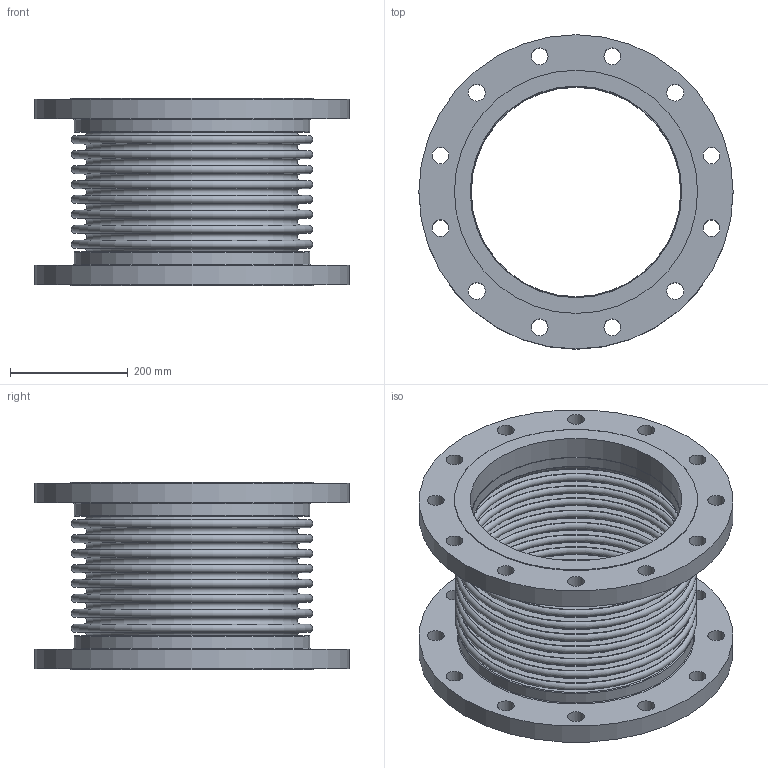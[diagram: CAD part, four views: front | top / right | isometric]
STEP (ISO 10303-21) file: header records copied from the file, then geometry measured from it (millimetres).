
FILE_DESCRIPTION(/* description */ ('EXPANSION JOINT,SINGLE, FLANGED ENDS,14 INCH','CAx-IF Rec.Pracs.---Representation and Presentation of Product Manufacturing Information (PMI)---4.0---2014-10-13'),/* implementation_level */ '2;1');
FILE_NAME(/* name */ 'US-14-8-85S-FLANGED ENDS.stp',/* time_stamp */ '2026-07-31T18:02:20-05:00',/* author */ ('Guadalupe'),/* organization */ (''),/* preprocessor_version */ 'ST-DEVELOPER v20.1',/* originating_system */ 'Autodesk Inventor 2026',/* authorisation */ '');
FILE_SCHEMA (('AP242_MANAGED_MODEL_BASED_3D_ENGINEERING_MIM_LF { 1 0 10303 442 2 1 4 }'));
Length unit declared in the file: inch
Products named in the file (3): 14-85S; 14-85S-02; 14-85S-01
Assembly tree (3 placements, depth 2):
  14-85S
    14-85S-02  x2
    14-85S-01
Bounding box: 533.4 x 533.4 x 317.5 mm (x, y, z)
Volume: 9430612.6 mm3; surface area: 2199952 mm2
Topology: 5 solids, 5 shells, 120 faces, 222 edges, 148 vertices
Faces by surface type: plane 46, torus 38, cylinder 36
Full cylindrical faces by diameter (mm): 28.575 x24, 355.6 x2, 357.429 x2, 359.156 x2, 400.05 x2, 412.75 x2, 533.4 x2
Entity records: 2714 total; most frequent: DIRECTION 550, CARTESIAN_POINT 401, ORIENTED_EDGE 336, AXIS2_PLACEMENT_3D 265, EDGE_CURVE 168, EDGE_LOOP 164, CIRCLE 148, VERTEX_POINT 112
